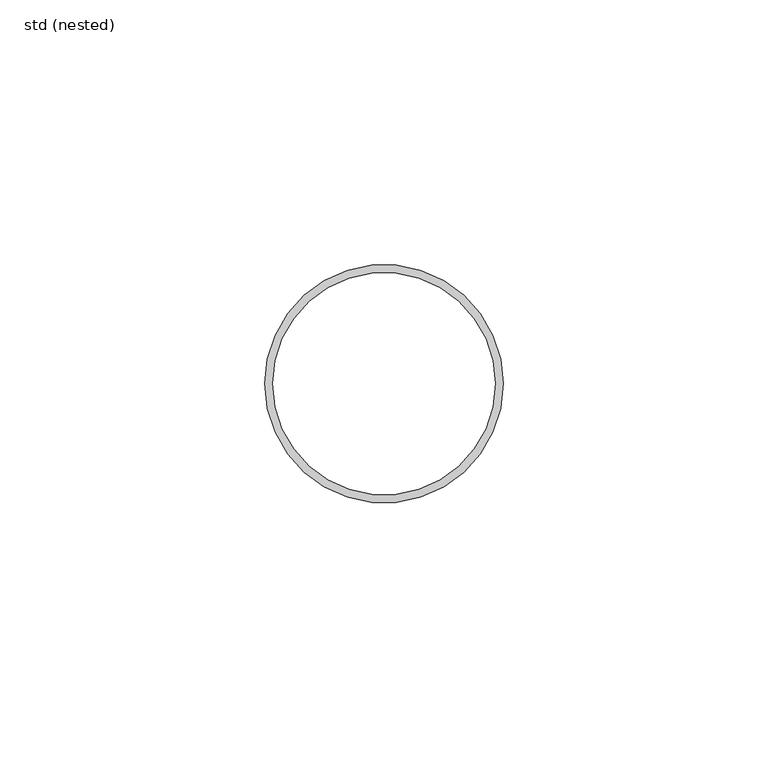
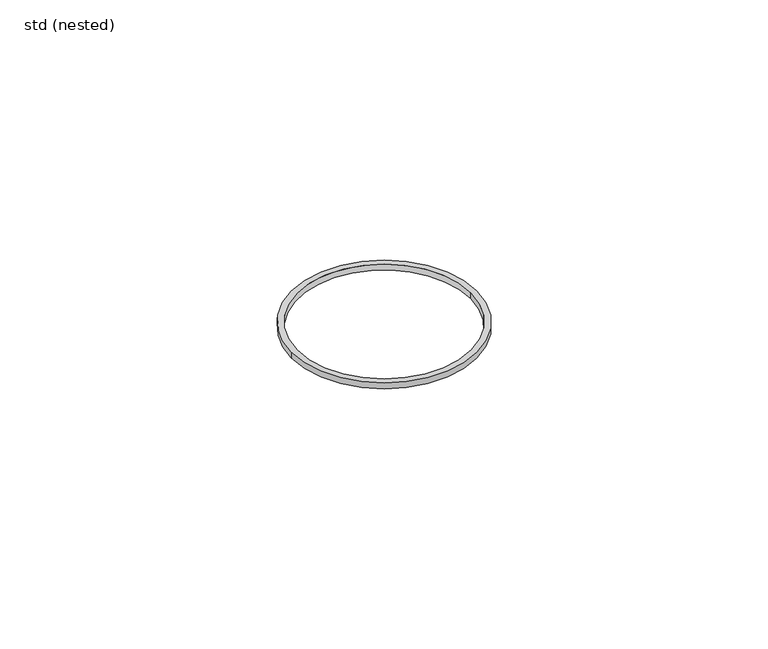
"""IFC4 building model written with IfcOpenShell, lengths in millimetres: pipe fitting geometry, ZZZ_do not use_PIF_GEN_WPB_GM-X (compound) pipe seal_ACO : std (nested)."""

from ifc_helpers import new_model, si_unit, point, origin, origin_with_axes, origin_2d, place, context, project, spatial, circle_curve, trimmed, segment, composite_curve, outline, extrude, source, transform, mapped, element, save


def std_nested_3a4fb9c7(model_context):
    return source(origin(), model_context, "Body", "SweptSolid", [
        extrude(outline(composite_curve([segment(trimmed(circle_curve(origin_2d(), 22.5), [point((22.5, 0.0))], [point((-22.5, 0.0))], False, "CARTESIAN"), True, "CONTINUOUS"), segment(trimmed(circle_curve(origin_2d(), 22.5), [point((-22.5, 0.0))], [point((22.5, 0.0))], False, "CARTESIAN"), True, "CONTINUOUS")], self_intersect=False), holes=[composite_curve([segment(trimmed(circle_curve(origin_2d(), 21.0), [point((21.0, 0.0))], [point((-21.0, 0.0))], True, "CARTESIAN"), True, "CONTINUOUS"), segment(trimmed(circle_curve(origin_2d(), 21.0), [point((-21.0, 0.0))], [point((21.0, 0.0))], True, "CARTESIAN"), True, "CONTINUOUS")], self_intersect=False)]), origin_with_axes(), (0.0, 0.0, 1.0), 1.5),
    ])


if __name__ == "__main__":
    model = new_model("IFC4")
    model_context = context("Model", 3, world=origin())
    ifc_project = project(units=[si_unit("LENGTHUNIT", "METRE", prefix="MILLI")], contexts=[model_context])
    site = spatial("IfcSite", under=ifc_project)
    building = spatial("IfcBuilding", under=site)
    placement = place(None, origin())
    std_nested_shape = std_nested_3a4fb9c7(model_context)
    element("IfcPipeFitting", 1, ObjectType="ZZZ_do not use_PIF_GEN_WPB_GM-X (compound) pipe seal_ACO : std (nested)", at=placement, inside=building, context=model_context, shape_type="MappedRepresentation", body=[
        mapped(std_nested_shape, transform((0.0, 0.0, 0.0), x_axis=(1.0, 0.0, 0.0), y_axis=(0.0, 1.0, 0.0), z_axis=(0.0, 0.0, 1.0))),
    ])
    save(model, "model.ifc")
